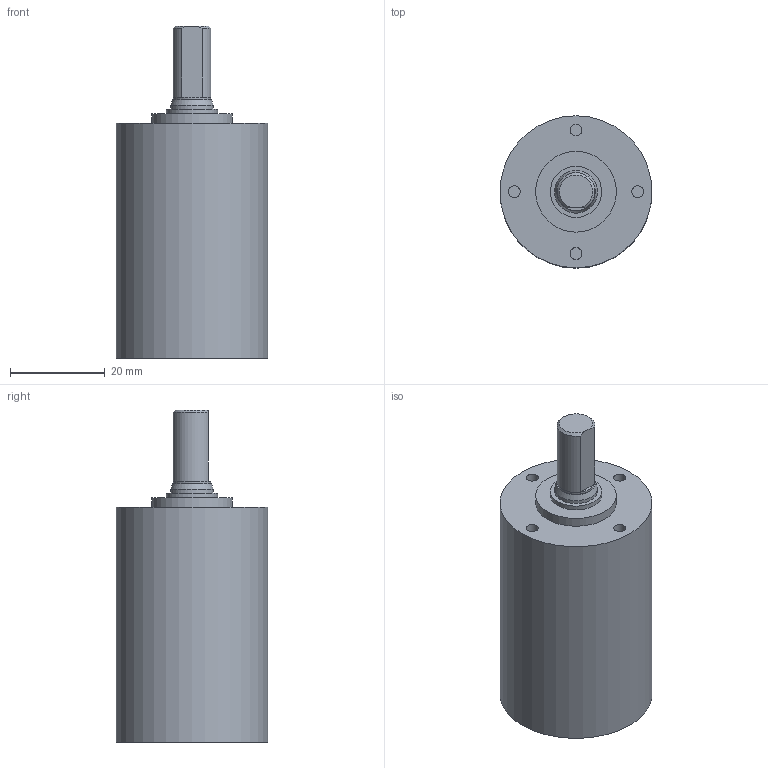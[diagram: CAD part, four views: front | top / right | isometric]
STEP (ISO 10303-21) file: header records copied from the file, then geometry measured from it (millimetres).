
FILE_DESCRIPTION(/* description */ (''),/* implementation_level */ '2;1');
FILE_NAME(/* name */ '32-3_3stage.stp',/* time_stamp */ '2021-02-23T06:57:14+01:00',/* author */ ('DR. FRITZ FAULHABER GmbH & Co. KG'),/* organization */ ('DR. FRITZ FAULHABER GmbH & Co. KG'),/* preprocessor_version */ 'ST-DEVELOPER v16.7',/* originating_system */ 'SIEMENS PLM Software NX 1919',/* authorisation */ '');
FILE_SCHEMA (('AUTOMOTIVE_DESIGN { 1 0 10303 214 3 1 1 1 }'));
Length unit declared in the file: millimetre
Products named in the file (1): 012019_A_5-TP-00213
Bounding box: 32 x 32 x 69.9 mm (x, y, z)
Volume: 33140.9 mm3; surface area: 8449.8 mm2
Topology: 1 solids, 1 shells, 37 faces, 71 edges, 51 vertices
Faces by surface type: plane 19, cylinder 16, cone 2
Full cylindrical faces by diameter (mm): 2.5 x4, 7.9 x1, 9 x1, 10.8 x1, 11.8 x1, 13.5 x1, 17 x1, 26.9 x1, 27.57 x1, 30 x1, 30.459 x1, 32 x1
Entity records: 904 total; most frequent: DIRECTION 172, CARTESIAN_POINT 136, ORIENTED_EDGE 86, AXIS2_PLACEMENT_3D 83, EDGE_LOOP 67, FACE_BOUND 56, CIRCLE 45, EDGE_CURVE 43
